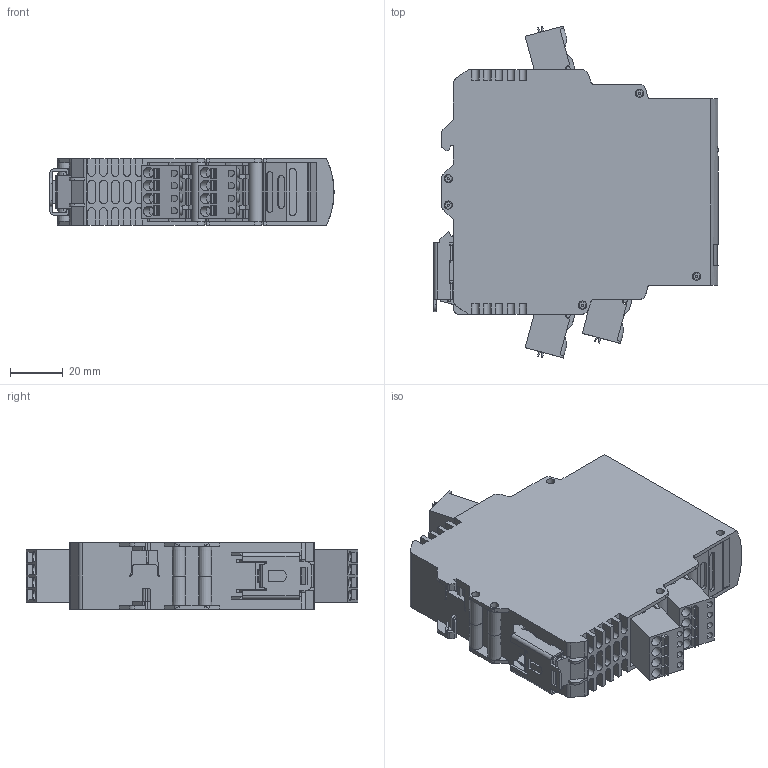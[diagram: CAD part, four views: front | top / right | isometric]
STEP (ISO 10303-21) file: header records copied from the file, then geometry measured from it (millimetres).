
FILE_DESCRIPTION( ( 'STEP AP203' ), '1' );
FILE_NAME( 'p:/temp/worker_135/temp/exporttempdir_3908_476_TpDdm/format_2/AC3226.stp', '2022-02-09T10:12:47', ( 'License CC BY-ND 4.0' ), ( 'CADENAS' ), ' ', 'PARTsolutions', ' ' );
FILE_SCHEMA( ( 'CONFIG_CONTROL_DESIGN' ) );
Length unit declared in the file: millimetre
Products named in the file (1): _AC3226
Bounding box: 107.92 x 126.12 x 25.4 mm (x, y, z)
Volume: 220691.8 mm3; surface area: 42707.3 mm2
Topology: 1 solids, 1 shells, 984 faces, 2846 edges, 1894 vertices
Faces by surface type: plane 778, cylinder 178, cone 28
Full cylindrical faces by diameter (mm): 1.99 x4, 2.27 x4, 4 x12
Entity records: 32387 total; most frequent: CARTESIAN_POINT 6114, ORIENTED_EDGE 5604, DIRECTION 5167, EDGE_CURVE 2802, LINE 2345, VECTOR 2345, VERTEX_POINT 1890, AXIS2_PLACEMENT_3D 1411
